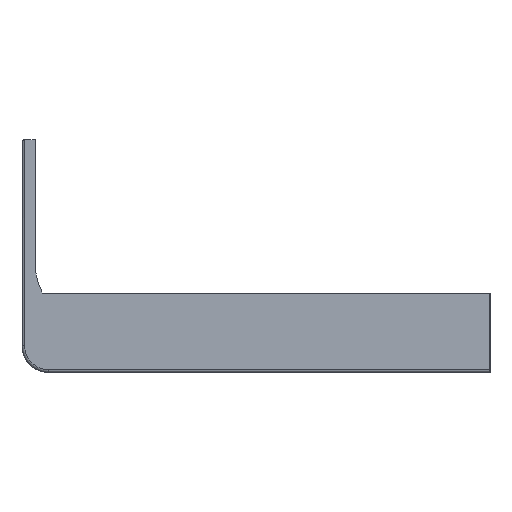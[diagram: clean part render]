
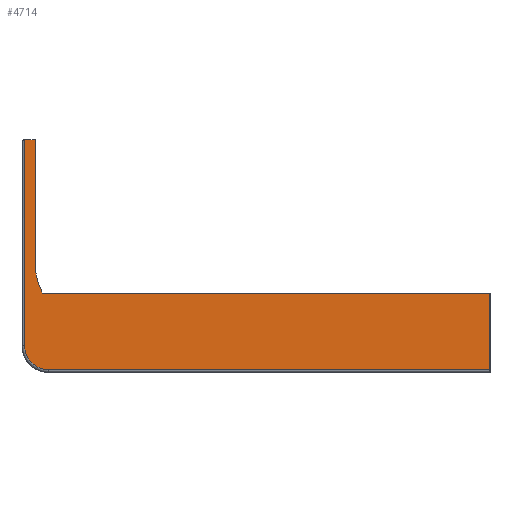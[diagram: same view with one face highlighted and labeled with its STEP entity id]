
A CAD part, left-side view. The second image highlights one B-rep face of the part: STEP entity #4714.
In plain terms, the highlighted planar face has unit normal (-1, 0, 0).
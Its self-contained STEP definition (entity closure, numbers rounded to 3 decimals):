
#294=DIRECTION('',(0.,0.,1.));
#295=VECTOR('',#294,14.5);
#296=CARTESIAN_POINT('',(-53.5,-44.25,0.5));
#297=LINE('',#296,#295);
#509=DIRECTION('',(0.,0.,-1.));
#510=VECTOR('',#509,23.5);
#511=CARTESIAN_POINT('',(-53.5,41.75,44.));
#512=LINE('',#511,#510);
#513=CARTESIAN_POINT('',(-53.5,29.871,20.5));
#514=DIRECTION('',(-1.,0.,0.));
#515=DIRECTION('',(0.,1.,0.));
#516=AXIS2_PLACEMENT_3D('',#513,#514,#515);
#518=DIRECTION('',(0.,1.,0.));
#519=VECTOR('',#518,84.65);
#520=CARTESIAN_POINT('',(-53.5,-44.25,15.));
#521=LINE('',#520,#519);
#522=DIRECTION('',(0.,-1.,0.));
#523=VECTOR('',#522,83.5);
#524=CARTESIAN_POINT('',(-53.5,39.25,0.5));
#525=LINE('',#524,#523);
#526=CARTESIAN_POINT('',(-53.5,39.25,5.));
#527=DIRECTION('',(-1.,0.,0.));
#528=DIRECTION('',(0.,1.,0.));
#529=AXIS2_PLACEMENT_3D('',#526,#527,#528);
#531=DIRECTION('',(0.,0.,-1.));
#532=VECTOR('',#531,39.);
#533=CARTESIAN_POINT('',(-53.5,43.75,44.));
#534=LINE('',#533,#532);
#535=DIRECTION('',(0.,-1.,0.));
#536=VECTOR('',#535,2.);
#537=CARTESIAN_POINT('',(-53.5,43.75,44.));
#538=LINE('',#537,#536);
#3369=CARTESIAN_POINT('',(-53.5,-44.25,15.));
#3371=VERTEX_POINT('',#3369);
#3816=CARTESIAN_POINT('',(-53.5,41.75,44.));
#3818=VERTEX_POINT('',#3816);
#3883=CARTESIAN_POINT('',(-53.5,-44.25,0.5));
#3885=VERTEX_POINT('',#3883);
#3889=CARTESIAN_POINT('',(-53.5,39.25,0.5));
#3890=VERTEX_POINT('',#3889);
#3891=CARTESIAN_POINT('',(-53.5,43.75,5.));
#3892=VERTEX_POINT('',#3891);
#3895=CARTESIAN_POINT('',(-53.5,43.75,44.));
#3896=VERTEX_POINT('',#3895);
#4183=CARTESIAN_POINT('',(-53.5,41.75,20.5));
#4184=CARTESIAN_POINT('',(-53.5,40.4,15.));
#4185=VERTEX_POINT('',#4183);
#4186=VERTEX_POINT('',#4184);
#4694=CARTESIAN_POINT('',(-53.5,44.25,0.));
#4695=DIRECTION('',(-1.,0.,0.));
#4696=DIRECTION('',(0.,-1.,0.));
#4697=AXIS2_PLACEMENT_3D('',#4694,#4695,#4696);
#4698=PLANE('',#4697);
#4700=ORIENTED_EDGE('',*,*,#4699,.T.);
#4702=ORIENTED_EDGE('',*,*,#4701,.T.);
#4704=ORIENTED_EDGE('',*,*,#4703,.F.);
#4705=ORIENTED_EDGE('',*,*,#4515,.F.);
#4706=ORIENTED_EDGE('',*,*,#4674,.F.);
#4707=ORIENTED_EDGE('',*,*,#4684,.F.);
#4709=ORIENTED_EDGE('',*,*,#4708,.F.);
#4711=ORIENTED_EDGE('',*,*,#4710,.T.);
#4712=EDGE_LOOP('',(#4700,#4702,#4704,#4705,#4706,#4707,#4709,#4711));
#4713=FACE_OUTER_BOUND('',#4712,.F.);
#4714=ADVANCED_FACE('',(#4713),#4698,.T.);
#517=CIRCLE('',#516,11.879);
#530=CIRCLE('',#529,4.5);
#4515=EDGE_CURVE('',#3885,#3371,#297,.T.);
#4674=EDGE_CURVE('',#3890,#3885,#525,.T.);
#4684=EDGE_CURVE('',#3892,#3890,#530,.T.);
#4699=EDGE_CURVE('',#3818,#4185,#512,.T.);
#4701=EDGE_CURVE('',#4185,#4186,#517,.T.);
#4703=EDGE_CURVE('',#3371,#4186,#521,.T.);
#4708=EDGE_CURVE('',#3896,#3892,#534,.T.);
#4710=EDGE_CURVE('',#3896,#3818,#538,.T.);
